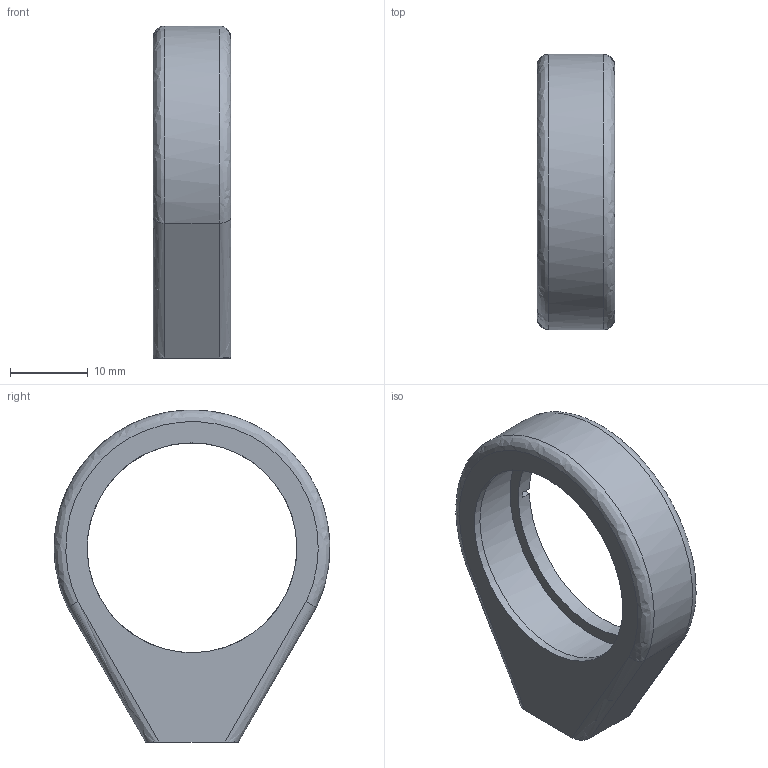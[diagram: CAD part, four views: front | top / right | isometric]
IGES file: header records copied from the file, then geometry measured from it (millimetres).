
Global section: file name: LHG-30; native system: Autodesk Inventor 2014; preprocessor: unknown; author: e.nonaka; date: 20150316.092442; units: millimetre
Bounding box: 10 x 35.5 x 42.74 mm (x, y, z)
Volume: 4474.9 mm3; surface area: 3520.9 mm2
Topology: 1 solids, 1 shells, 31 faces, 75 edges, 49 vertices
Faces by surface type: bspline 31
